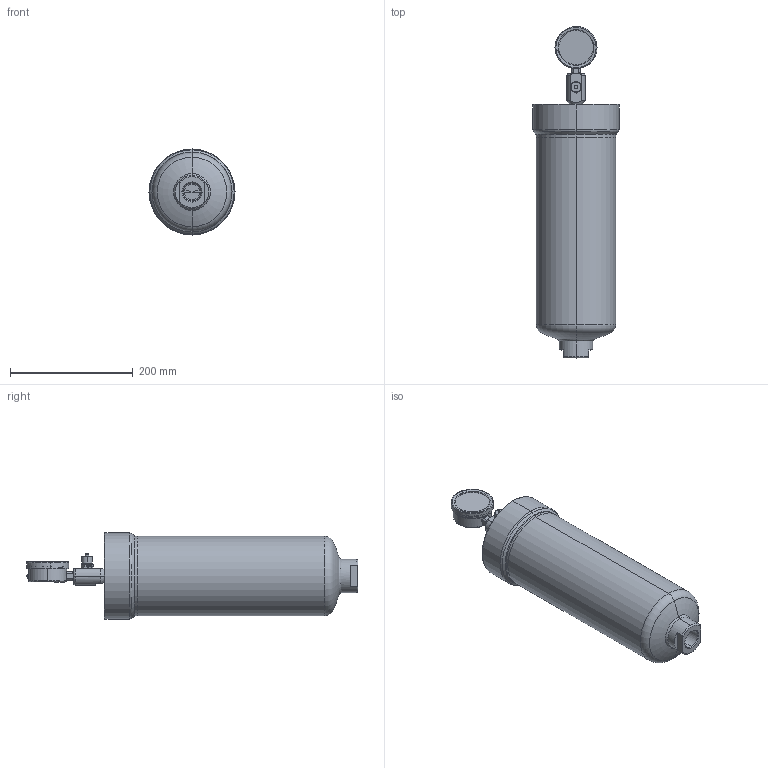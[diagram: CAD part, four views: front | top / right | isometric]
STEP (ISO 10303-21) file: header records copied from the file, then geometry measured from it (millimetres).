
FILE_DESCRIPTION (( 'STEP AP214' ), '1' );
FILE_NAME ('U040G03X1-AI (DGA).STEP', '2025-05-14T14:59:09', ( '' ), ( '' ), 'SwSTEP 2.0', 'SolidWorks 2024', '' );
FILE_SCHEMA (( 'AUTOMOTIVE_DESIGN' ));
Length unit declared in the file: millimetre
Products named in the file (1): U040G03X1-AI (DGA)
Bounding box: 140 x 540.41 x 140 mm (x, y, z)
Surface area: 237715.6 mm2 (no closed solid volume)
Topology: 0 solids, 16 shells, 472 faces, 1191 edges, 734 vertices
Faces by surface type: plane 143, cylinder 135, torus 77, cone 67, bspline 36, sphere 14
Entity records: 19995 total; most frequent: CARTESIAN_POINT 3465, DIRECTION 2484, ORIENTED_EDGE 2201, EDGE_CURVE 1175, AXIS2_PLACEMENT_3D 1019, VERTEX_POINT 734, CIRCLE 582, EDGE_LOOP 534
